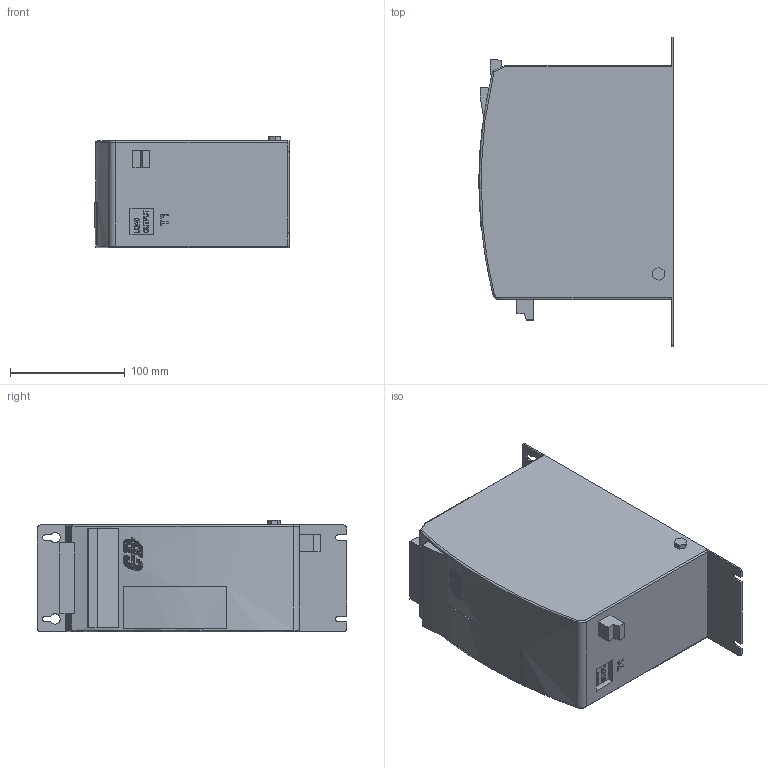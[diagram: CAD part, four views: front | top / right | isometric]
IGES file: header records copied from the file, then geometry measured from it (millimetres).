
Global section: file name: SR12 60A 1PH; native system: AutoCAD 2015 - Italiano (Italian); preprocessor: Autodesk Translation Framework DWG producer (atf_dwg_producer); organization: unknown; date: 20180117.121637; units: millimetre
Bounding box: 169.37 x 269.5 x 97 mm (x, y, z)
Volume: 3145327 mm3; surface area: 149952.6 mm2
Topology: 1 solids, 1 shells, 1121 faces, 3101 edges, 2062 vertices
Faces by surface type: bspline 1121
